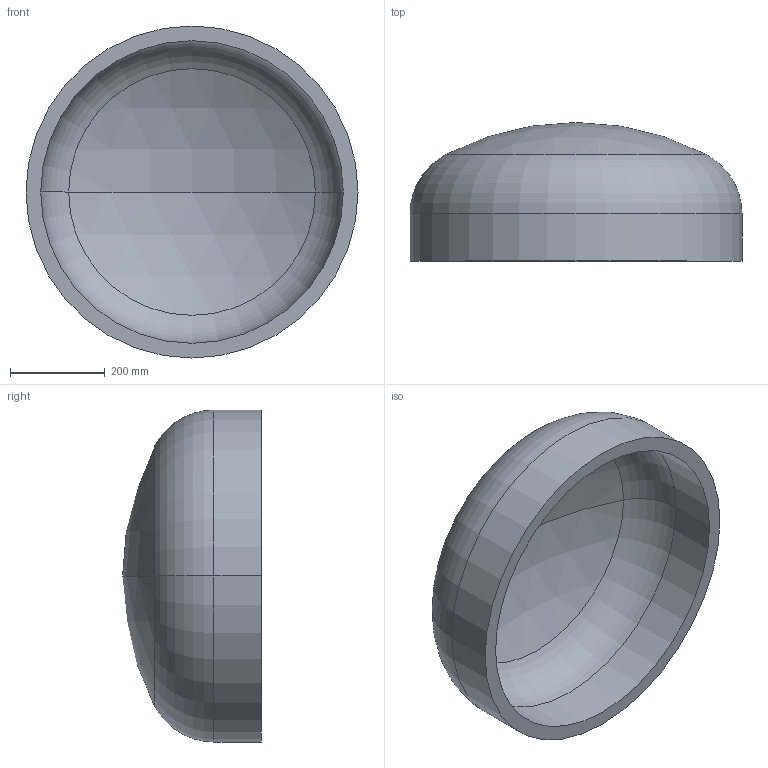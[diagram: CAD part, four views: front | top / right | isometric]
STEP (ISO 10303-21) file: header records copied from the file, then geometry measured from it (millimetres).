
FILE_DESCRIPTION (( 'STEP AP203' ), '1' );
FILE_NAME ('DIN 28013 Korbbogenform_-_Boden DIN 28013 - 700 x 100 - I - s=31.step', '2016-07-01T08:06:32', ( '' ), ( '' ), 'SwSTEP 2.0', 'SolidWorks 2013', '' );
FILE_SCHEMA (( 'CONFIG_CONTROL_DESIGN' ));
Length unit declared in the file: millimetre
Products named in the file (1): DIN 28013 Korbbogenform_-_Boden DIN 28013 - 700 x 100 - I - s=31
Bounding box: 700 x 292.48 x 700 mm (x, y, z)
Volume: 22185150 mm3; surface area: 1498465.9 mm2
Topology: 1 solids, 1 shells, 13 faces, 24 edges, 14 vertices
Faces by surface type: torus 4, cylinder 4, sphere 4, plane 1
Entity records: 407 total; most frequent: DIRECTION 72, CARTESIAN_POINT 52, ORIENTED_EDGE 48, AXIS2_PLACEMENT_3D 34, EDGE_CURVE 24, CIRCLE 20, EDGE_LOOP 14, VERTEX_POINT 14
